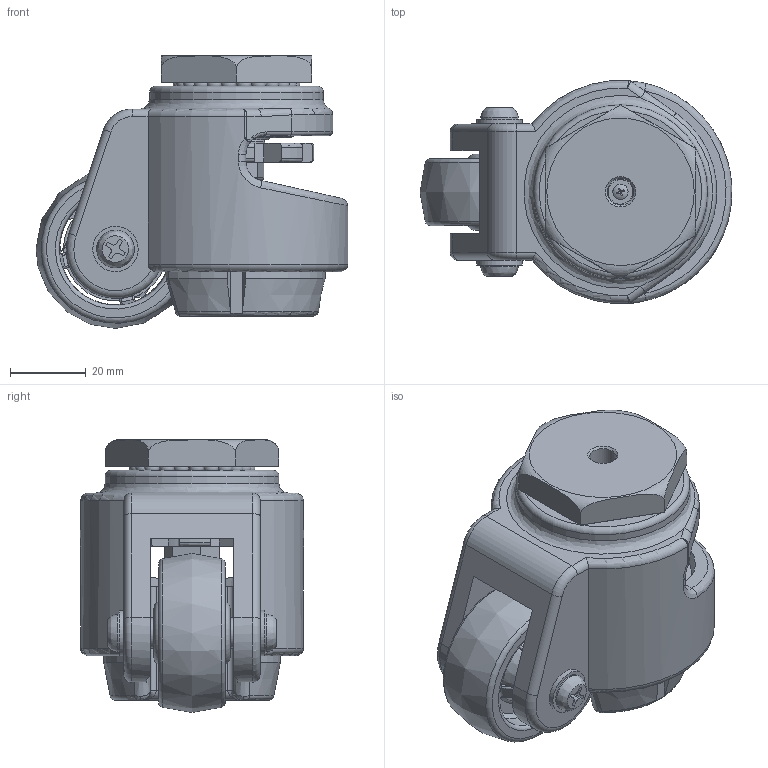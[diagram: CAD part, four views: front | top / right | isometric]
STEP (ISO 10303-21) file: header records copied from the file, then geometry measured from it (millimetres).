
FILE_DESCRIPTION((''),'2;1');
FILE_NAME('E:\catalogue and flyer\Profile catalogue 2015\Accessories- FM & wheel\foot mout & wheel stp file\AC-50S.stp','2016-04-08T11:40:32',('h029'),(''),'Autodesk Inventor 11','Autodesk Inventor 11','');
FILE_SCHEMA(('AUTOMOTIVE_DESIGN { 1 0 10303 214 1 1 1 1 }'));
Length unit declared in the file: millimetre
Products named in the file (3): AC-50S; AC-50S_1; AC-50S_2
Assembly tree (2 placements, depth 2):
  AC-50S
    AC-50S_1
    AC-50S_2
Bounding box: 82.47 x 58.99 x 72.15 mm (x, y, z)
Volume: 131499.5 mm3; surface area: 49811.8 mm2
Topology: 5 solids, 8 shells, 629 faces, 1698 edges, 1041 vertices
Faces by surface type: plane 230, cylinder 185, torus 75, bspline 68, sphere 45, cone 26
Full cylindrical faces by diameter (mm): 1.6 x1, 2 x1, 3.2 x1, 4 x1, 4.917 x1, 5.2 x1, 5.8 x1, 6 x1, 6.49 x1, 6.647 x1, 7 x1, 8 x2, 8.2 x1, 9 x2, 10 x2, 12 x2, 15 x1, 18 x2, 22.5 x1, 24 x1, 30 x1, 32.2 x1, 46 x1
Entity records: 25679 total; most frequent: CARTESIAN_POINT 11122, DIRECTION 3076, ORIENTED_EDGE 2960, EDGE_CURVE 1480, AXIS2_PLACEMENT_3D 1214, VERTEX_POINT 936, EDGE_LOOP 728, VECTOR 648
